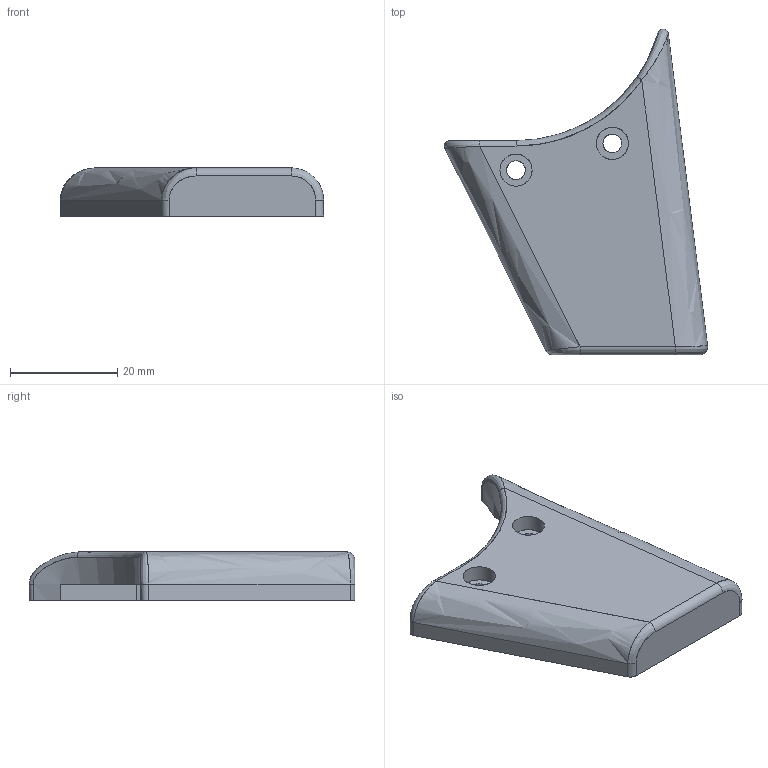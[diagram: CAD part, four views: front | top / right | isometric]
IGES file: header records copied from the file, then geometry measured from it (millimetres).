
Start section: SolidWorks IGES file using analytic representation for surfaces
Global section: file name: C:\Users\holy\Desktop\KRC5FH\GRIP\GRIP-DATA\GRIP-1-R-U.igs; native system: Rhinoceros ( Feb 26 2015 ); preprocessor: Trout Lake IGES 012 Feb 26 2015; date: 150529.074432; units: millimetre
Bounding box: 49.18 x 60.85 x 9 mm (x, y, z)
Surface area: 4968.1 mm2 (no closed solid volume)
Topology: 0 solids, 0 shells, 34 faces, 288 edges, 278 vertices
Faces by surface type: bspline 34
